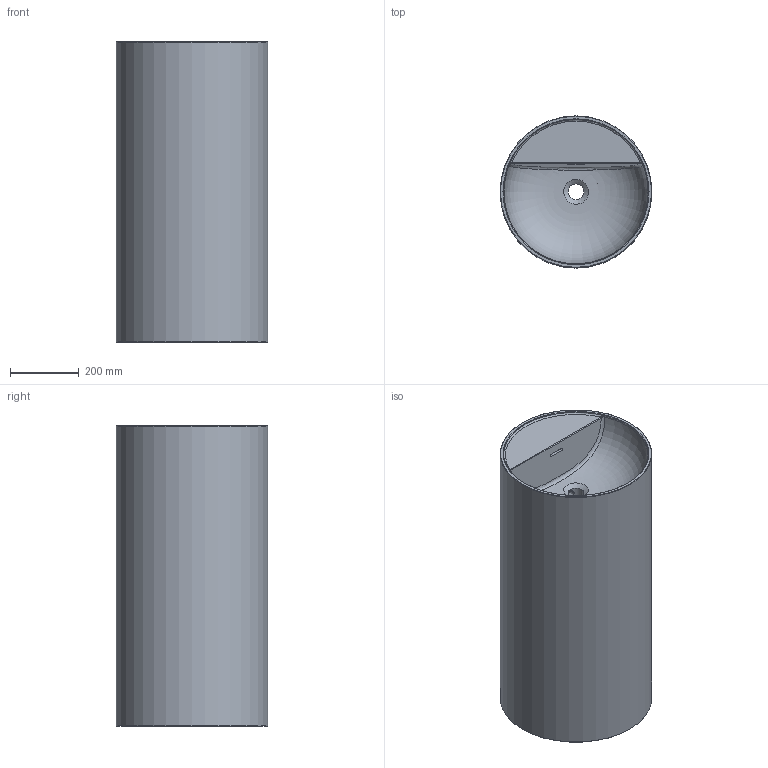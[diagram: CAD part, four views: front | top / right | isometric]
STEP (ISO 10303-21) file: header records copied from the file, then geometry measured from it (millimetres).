
FILE_DESCRIPTION(/* description */ (''),/* implementation_level */ '2;1');
FILE_NAME(/* name */ '16-188_C1000A.stp',/* time_stamp */ '2018-06-21T09:16:45+02:00',/* author */ (''),/* organization */ (''),/* preprocessor_version */ 'ST-DEVELOPER v15',/* originating_system */ 'SIEMENS PLM Software NX 8.5',/* authorisation */ '');
FILE_SCHEMA (('AUTOMOTIVE_DESIGN { 1 0 10303 214 3 1 1 1 }'));
Length unit declared in the file: millimetre
Products named in the file (1): Robe17607263nuhb
Bounding box: 440 x 440 x 870 mm (x, y, z)
Volume: 19168061.5 mm3; surface area: 2704480.5 mm2
Topology: 1 solids, 1 shells, 234 faces, 548 edges, 300 vertices
Faces by surface type: bspline 108, cylinder 52, plane 40, torus 15, sphere 12, cone 5, revolution 1, extrusion 1
Full cylindrical faces by diameter (mm): 10 x2, 20 x2, 35 x1, 46 x1, 440 x1
Entity records: 9514 total; most frequent: CARTESIAN_POINT 5061, ORIENTED_EDGE 1010, DIRECTION 775, EDGE_CURVE 505, AXIS2_PLACEMENT_3D 337, VERTEX_POINT 293, EDGE_LOOP 262, ADVANCED_FACE 234
